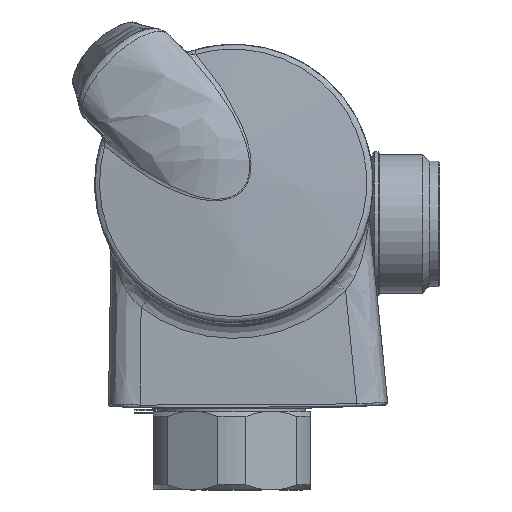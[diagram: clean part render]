
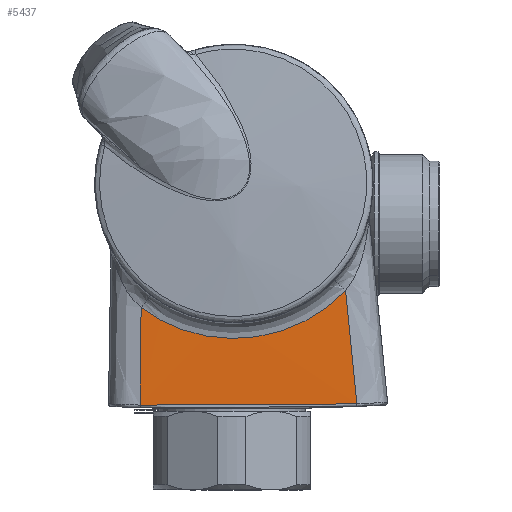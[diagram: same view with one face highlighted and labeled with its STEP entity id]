
A CAD part, left-side view. The second image highlights one B-rep face of the part: STEP entity #5437.
In plain terms, the highlighted cylindrical face has radius 2000 mm (diameter 4000 mm), a partial arc.
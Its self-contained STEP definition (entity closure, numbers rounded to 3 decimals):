
#278 = CYLINDRICAL_SURFACE ( 'NONE', #11887, 2000. ) ;
#380 = ORIENTED_EDGE ( 'NONE', *, *, #729, .T. ) ;
#391 = CARTESIAN_POINT ( 'NONE',  ( -96.929, -9.719, 30.521 ) ) ;
#453 = CARTESIAN_POINT ( 'NONE',  ( -97.154, 9.905, 30.838 ) ) ;
#729 = EDGE_CURVE ( 'NONE', #13072, #12035, #8092, .T. ) ;
#1248 = DIRECTION ( 'NONE',  ( 0., -1., 0. ) ) ;
#1700 = VERTEX_POINT ( 'NONE', #15098 ) ;
#1727 = CARTESIAN_POINT ( 'NONE',  ( -96.699, -21.63, 38.114 ) ) ;
#1785 = CARTESIAN_POINT ( 'NONE',  ( -96.983, -6.304, 29.557 ) ) ;
#1849 = CARTESIAN_POINT ( 'NONE',  ( -97.167, 11.959, 31.679 ) ) ;
#2430 = CARTESIAN_POINT ( 'NONE',  ( -96.699, -21.63, 38.114 ) ) ;
#2610 = DIRECTION ( 'NONE',  ( 0., 0., 1. ) ) ;
#2669 = CARTESIAN_POINT ( 'NONE',  ( 1902.803, 23.026, 15.5 ) ) ;
#3145 = CARTESIAN_POINT ( 'NONE',  ( -96.727, -20.362, 36.845 ) ) ;
#3209 = CARTESIAN_POINT ( 'NONE',  ( -97.042, -1.896, 29.028 ) ) ;
#3232 = CARTESIAN_POINT ( 'NONE',  ( -97.189, 17.471, 22.502 ) ) ;
#3279 = CARTESIAN_POINT ( 'NONE',  ( -97.185, 15.85, 33.789 ) ) ;
#3302 = CARTESIAN_POINT ( 'NONE',  ( -97.189, 17.287, 34.865 ) ) ;
#3345 = CARTESIAN_POINT ( 'NONE',  ( -97.189, 17.476, 16.319 ) ) ;
#4313 = EDGE_LOOP ( 'NONE', ( #380, #10566, #12966, #9014 ) ) ;
#4560 = CARTESIAN_POINT ( 'NONE',  ( -96.77, -18.31, 35.109 ) ) ;
#4624 = CARTESIAN_POINT ( 'NONE',  ( -97.074, 0.788, 29.008 ) ) ;
#4764 = CARTESIAN_POINT ( 'NONE',  ( -96.971, -10.034, 15.904 ) ) ;
#4897 = FACE_OUTER_BOUND ( 'NONE', #4313, .T. ) ;
#5437 = ADVANCED_FACE ( 'NONE', ( #4897 ), #278, .T. ) ;
#5966 = CARTESIAN_POINT ( 'NONE',  ( -96.843, -14.63, 32.643 ) ) ;
#6035 = CARTESIAN_POINT ( 'NONE',  ( -97.11, 4.319, 29.317 ) ) ;
#7387 = CARTESIAN_POINT ( 'NONE',  ( -96.887, -12.219, 31.502 ) ) ;
#7455 = CARTESIAN_POINT ( 'NONE',  ( -97.142, 8.208, 30.266 ) ) ;
#7522 = CARTESIAN_POINT ( 'NONE',  ( -97.151, 3.719, 15.827 ) ) ;
#8092 = B_SPLINE_CURVE_WITH_KNOTS ( 'NONE', 3,
 ( #3302, #9332, #3232, #16208 ),
 .UNSPECIFIED., .F., .F.,
 ( 4, 4 ),
 ( 0.164, 0.965 ),
 .UNSPECIFIED. ) ;
#8225 = EDGE_CURVE ( 'NONE', #10239, #13072, #11325, .T. ) ;
#8717 = EDGE_CURVE ( 'NONE', #12035, #1700, #16522, .T. ) ;
#8812 = CARTESIAN_POINT ( 'NONE',  ( -96.908, -10.978, 30.988 ) ) ;
#8868 = CARTESIAN_POINT ( 'NONE',  ( -97.151, 9.485, 30.685 ) ) ;
#9014 = ORIENTED_EDGE ( 'NONE', *, *, #8225, .T. ) ;
#9332 = CARTESIAN_POINT ( 'NONE',  ( -97.189, 17.408, 28.683 ) ) ;
#9450 = CARTESIAN_POINT ( 'NONE',  ( -96.649, -23.781, 16.548 ) ) ;
#10081 = CARTESIAN_POINT ( 'NONE',  ( -97.189, 17.287, 34.865 ) ) ;
#10150 = CARTESIAN_POINT ( 'NONE',  ( -96.712, -21.01, 37.465 ) ) ;
#10211 = CARTESIAN_POINT ( 'NONE',  ( -96.943, -8.871, 30.251 ) ) ;
#10239 = VERTEX_POINT ( 'NONE', #14365 ) ;
#10280 = CARTESIAN_POINT ( 'NONE',  ( -97.162, 11.148, 31.321 ) ) ;
#10566 = ORIENTED_EDGE ( 'NONE', *, *, #8717, .T. ) ;
#10861 = CARTESIAN_POINT ( 'NONE',  ( -96.682, -22.347, 30.925 ) ) ;
#11325 = B_SPLINE_CURVE_WITH_KNOTS ( 'NONE', 3,
 ( #1727, #10150, #3145, #13000, #4560, #14384, #5966, #15791, #7387, #17218, #8812, #391, #10211, #1785, #11641, #3209, #13061, #4624, #14449, #6035, #15856, #7455, #17284, #8868, #453, #10280, #1849, #11702, #3279, #13131 ),
 .UNSPECIFIED., .F., .F.,
 ( 4, 2, 2, 2, 2, 2, 2, 2, 2, 2, 2, 2, 2, 2, 4 ),
 ( 0., 0.003, 0.005, 0.011, 0.012, 0.013, 0.016, 0.022, 0.024, 0.027, 0.032, 0.034, 0.035, 0.038, 0.043 ),
 .UNSPECIFIED. ) ;
#11641 = CARTESIAN_POINT ( 'NONE',  ( -97.008, -4.56, 29.25 ) ) ;
#11702 = CARTESIAN_POINT ( 'NONE',  ( -97.179, 14.337, 32.861 ) ) ;
#11887 = AXIS2_PLACEMENT_3D ( 'NONE', #2669, #2610, #1248 ) ;
#12035 = VERTEX_POINT ( 'NONE', #17622 ) ;
#12966 = ORIENTED_EDGE ( 'NONE', *, *, #16634, .T. ) ;
#13000 = CARTESIAN_POINT ( 'NONE',  ( -96.755, -19.01, 35.666 ) ) ;
#13061 = CARTESIAN_POINT ( 'NONE',  ( -97.053, -0.996, 28.994 ) ) ;
#13072 = VERTEX_POINT ( 'NONE', #10081 ) ;
#13131 = CARTESIAN_POINT ( 'NONE',  ( -97.189, 17.287, 34.865 ) ) ;
#14365 = CARTESIAN_POINT ( 'NONE',  ( -96.699, -21.63, 38.114 ) ) ;
#14384 = CARTESIAN_POINT ( 'NONE',  ( -96.814, -16.151, 33.547 ) ) ;
#14449 = CARTESIAN_POINT ( 'NONE',  ( -97.083, 1.675, 29.056 ) ) ;
#14579 = CARTESIAN_POINT ( 'NONE',  ( -96.649, -23.781, 16.548 ) ) ;
#14764 = B_SPLINE_CURVE_WITH_KNOTS ( 'NONE', 3,
 ( #9450, #15021, #10861, #2430 ),
 .UNSPECIFIED., .F., .F.,
 ( 4, 4 ),
 ( 0.039, 0.849 ),
 .UNSPECIFIED. ) ;
#15021 = CARTESIAN_POINT ( 'NONE',  ( -96.666, -23.064, 23.737 ) ) ;
#15098 = CARTESIAN_POINT ( 'NONE',  ( -96.649, -23.781, 16.548 ) ) ;
#15791 = CARTESIAN_POINT ( 'NONE',  ( -96.879, -12.625, 31.685 ) ) ;
#15856 = CARTESIAN_POINT ( 'NONE',  ( -97.126, 6.06, 29.649 ) ) ;
#16208 = CARTESIAN_POINT ( 'NONE',  ( -97.189, 17.476, 16.319 ) ) ;
#16522 = B_SPLINE_CURVE_WITH_KNOTS ( 'NONE', 3,
 ( #3345, #7522, #4764, #14579 ),
 .UNSPECIFIED., .F., .F.,
 ( 4, 4 ),
 ( 0., 0.041 ),
 .UNSPECIFIED. ) ;
#16634 = EDGE_CURVE ( 'NONE', #1700, #10239, #14764, .T. ) ;
#17218 = CARTESIAN_POINT ( 'NONE',  ( -96.901, -11.396, 31.154 ) ) ;
#17284 = CARTESIAN_POINT ( 'NONE',  ( -97.145, 8.638, 30.4 ) ) ;
#17622 = CARTESIAN_POINT ( 'NONE',  ( -97.189, 17.476, 16.319 ) ) ;
